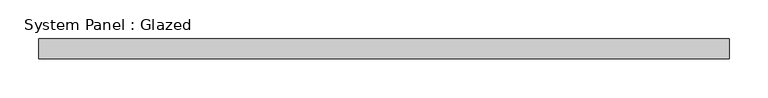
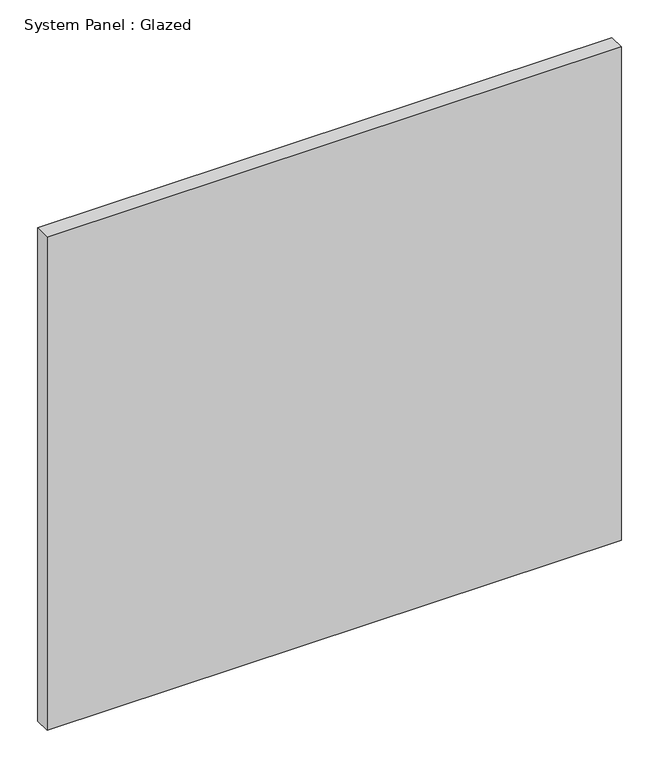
"""IFC4 building model written with IfcOpenShell, lengths in millimetres: plate geometry, System Panel : Glazed."""

from ifc_helpers import new_model, si_unit, origin, origin_with_axes, place, context, project, spatial, polyline, outline, extrude, source, transform, mapped, element, save


def system_panel_glazed_72c1cf23(model_context):
    return source(origin(), model_context, "Body", "SweptSolid", [
        extrude(outline(polyline([(442.3919032, 19.05), (-442.3919032, 19.05), (-442.3919032, 44.45), (442.3919032, 44.45), (442.3919032, 19.05)])), origin_with_axes(), (0.0, 0.0, 1.0), 802.4190025),
    ])


if __name__ == "__main__":
    model = new_model("IFC4")
    model_context = context("Model", 3, world=origin())
    ifc_project = project(units=[si_unit("LENGTHUNIT", "METRE", prefix="MILLI")], contexts=[model_context])
    site = spatial("IfcSite", under=ifc_project)
    building = spatial("IfcBuilding", under=site)
    placement = place(None, origin())
    system_panel_glazed_shape = system_panel_glazed_72c1cf23(model_context)
    element("IfcPlate", 1, ObjectType="System Panel : Glazed", at=placement, inside=building, context=model_context, shape_type="MappedRepresentation", body=[
        mapped(system_panel_glazed_shape, transform((0.0, 0.0, 0.0), x_axis=(1.0, 0.0, 0.0), y_axis=(0.0, 1.0, 0.0), z_axis=(0.0, 0.0, 1.0))),
    ])
    save(model, "model.ifc")
